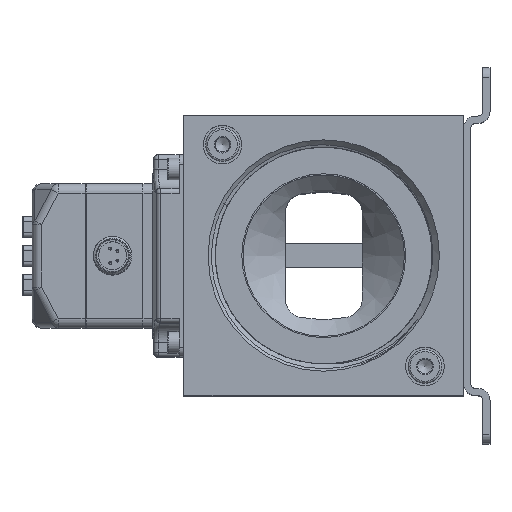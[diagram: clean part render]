
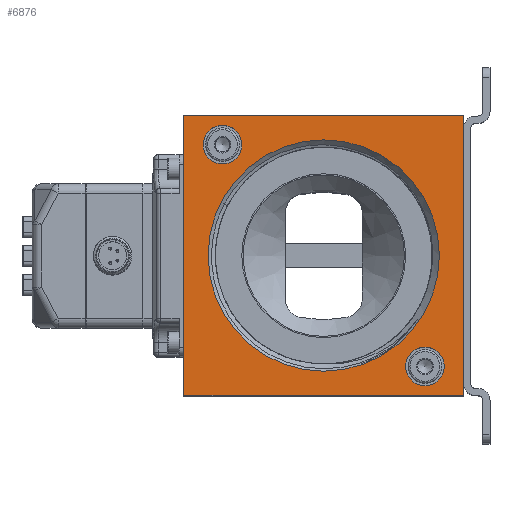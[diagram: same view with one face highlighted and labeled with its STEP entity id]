
A CAD part, top view. The second image highlights one B-rep face of the part: STEP entity #6876.
In plain terms, the highlighted planar face has unit normal (0, 0, 1).
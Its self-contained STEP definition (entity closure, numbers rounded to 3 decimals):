
#1278=LINE('',#34584,#3255);
#1279=LINE('',#34587,#3256);
#1280=LINE('',#34589,#3257);
#1281=LINE('',#34591,#3258);
#3255=VECTOR('',#27684,1.);
#3256=VECTOR('',#27685,1.);
#3257=VECTOR('',#27686,1.);
#3258=VECTOR('',#27687,1.);
#6157=FACE_BOUND('',#10326,.T.);
#6158=FACE_BOUND('',#10327,.T.);
#6159=FACE_BOUND('',#10328,.T.);
#6160=FACE_BOUND('',#10329,.T.);
#6876=ADVANCED_FACE('',(#6157,#6158,#6159,#6160),#8349,.F.);
#8349=PLANE('',#25236);
#10326=EDGE_LOOP('',(#12194,#12195,#12196,#12197));
#10327=EDGE_LOOP('',(#12198));
#10328=EDGE_LOOP('',(#12199));
#10329=EDGE_LOOP('',(#12200));
#12194=ORIENTED_EDGE('',*,*,#20964,.F.);
#12195=ORIENTED_EDGE('',*,*,#20965,.F.);
#12196=ORIENTED_EDGE('',*,*,#20966,.F.);
#12197=ORIENTED_EDGE('',*,*,#20967,.F.);
#12198=ORIENTED_EDGE('',*,*,#20968,.T.);
#12199=ORIENTED_EDGE('',*,*,#20969,.F.);
#12200=ORIENTED_EDGE('',*,*,#20970,.F.);
#18775=VERTEX_POINT('',#34585);
#18776=VERTEX_POINT('',#34586);
#18777=VERTEX_POINT('',#34588);
#18778=VERTEX_POINT('',#34590);
#18779=VERTEX_POINT('',#34593);
#18780=VERTEX_POINT('',#34595);
#18781=VERTEX_POINT('',#34597);
#20964=EDGE_CURVE('',#18775,#18776,#1278,.T.);
#20965=EDGE_CURVE('',#18777,#18775,#1279,.T.);
#20966=EDGE_CURVE('',#18778,#18777,#1280,.T.);
#20967=EDGE_CURVE('',#18776,#18778,#1281,.T.);
#20968=EDGE_CURVE('',#18779,#18779,#24252,.T.);
#20969=EDGE_CURVE('',#18780,#18780,#24253,.T.);
#20970=EDGE_CURVE('',#18781,#18781,#24254,.T.);
#24252=CIRCLE('',#25233,24.);
#24253=CIRCLE('',#25234,4.);
#24254=CIRCLE('',#25235,4.);
#25233=AXIS2_PLACEMENT_3D('',#34592,#27688,#27689);
#25234=AXIS2_PLACEMENT_3D('',#34594,#27690,#27691);
#25235=AXIS2_PLACEMENT_3D('',#34596,#27692,#27693);
#25236=AXIS2_PLACEMENT_3D('',#34598,#27694,#27695);
#27684=DIRECTION('',(-1.,0.,0.));
#27685=DIRECTION('',(0.,-1.,0.));
#27686=DIRECTION('',(1.,0.,0.));
#27687=DIRECTION('',(0.,1.,0.));
#27688=DIRECTION('',(0.,0.,-1.));
#27689=DIRECTION('',(0.,1.,0.));
#27690=DIRECTION('',(0.,0.,1.));
#27691=DIRECTION('',(-1.,0.,0.));
#27692=DIRECTION('',(0.,0.,1.));
#27693=DIRECTION('',(-1.,0.,0.));
#27694=DIRECTION('',(0.,0.,-1.));
#27695=DIRECTION('',(1.,0.,0.));
#34584=CARTESIAN_POINT('',(29.5,-1.5,14.));
#34585=CARTESIAN_POINT('',(58.5,-1.5,14.));
#34586=CARTESIAN_POINT('',(0.5,-1.5,14.));
#34587=CARTESIAN_POINT('',(58.5,27.5,14.));
#34588=CARTESIAN_POINT('',(58.5,56.5,14.));
#34589=CARTESIAN_POINT('',(29.5,56.5,14.));
#34590=CARTESIAN_POINT('',(0.5,56.5,14.));
#34591=CARTESIAN_POINT('',(0.5,27.5,14.));
#34592=CARTESIAN_POINT('',(29.5,27.5,14.));
#34593=CARTESIAN_POINT('',(29.5,51.5,14.));
#34594=CARTESIAN_POINT('',(50.5,4.5,14.));
#34595=CARTESIAN_POINT('',(46.5,4.5,14.));
#34596=CARTESIAN_POINT('',(8.5,50.5,14.));
#34597=CARTESIAN_POINT('',(4.5,50.5,14.));
#34598=CARTESIAN_POINT('',(29.5,27.5,14.));
